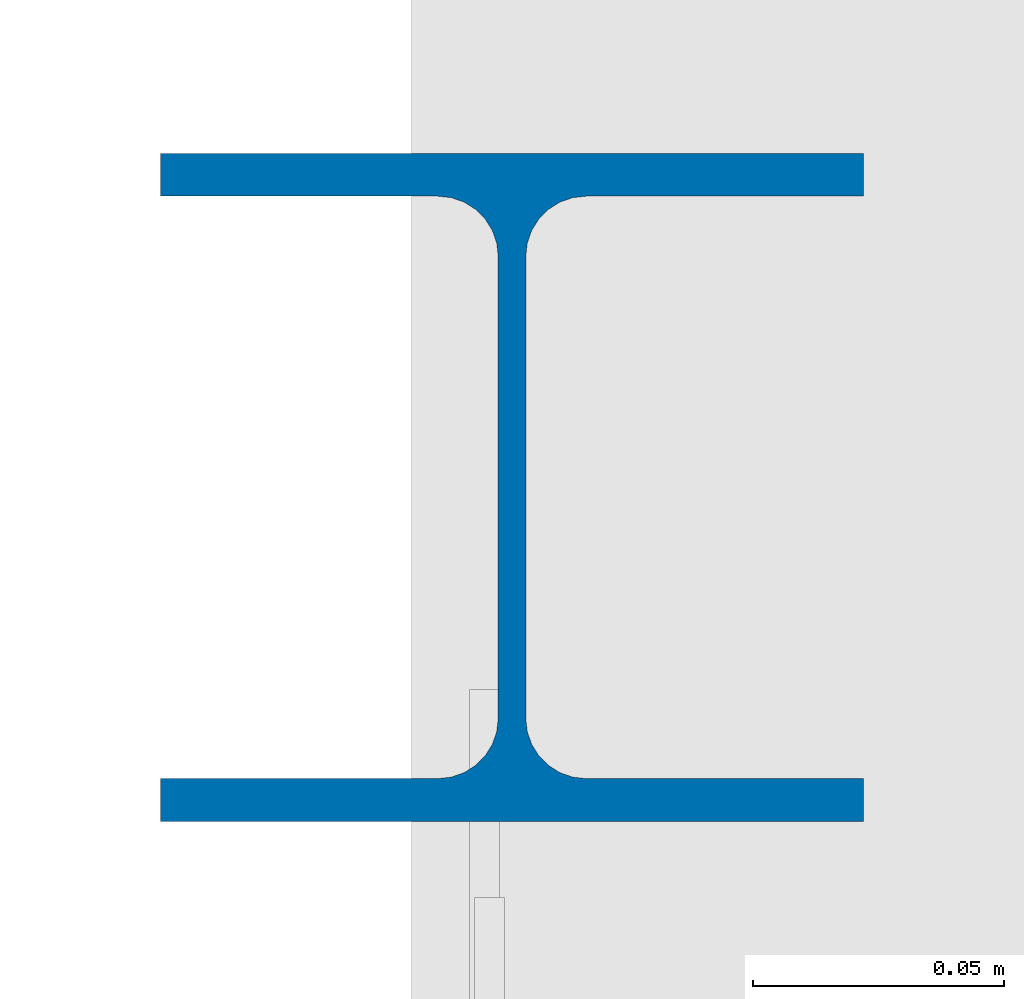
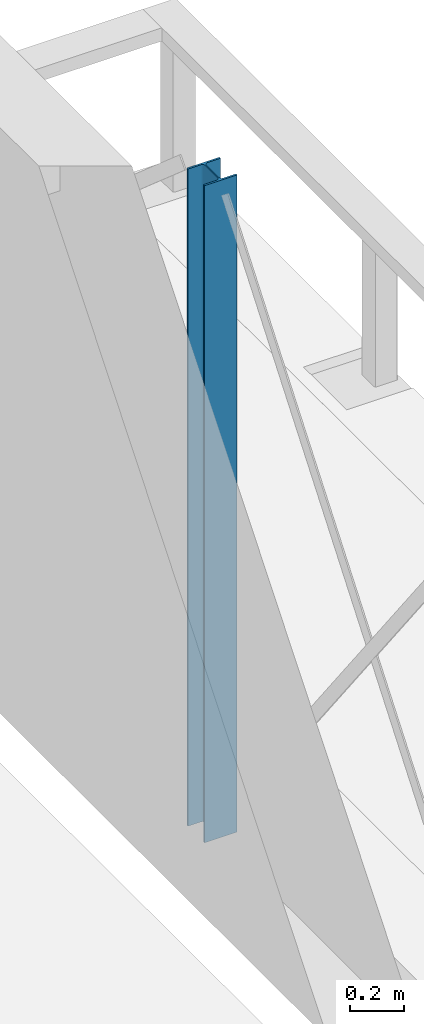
# One storey, part 3 of 68: 1 column.
"""IFC2X3 building model written with IfcOpenShell, lengths in millimetres."""

from ifc_helpers import new_model, entity, si_unit, converted_unit, derived_unit, direction, frame, frame_2d, origin, place, context, subcontext, project, spatial, i_section, extrude, source, transform, mapped, material, type_object, type_shapes, element, save


model = new_model("IFC2X3")

# Units and contexts
model_context = context("Model", 3, precision=0.01, world=origin(), true_north=direction((6.12303176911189e-17, 1.0)))
body_context = subcontext(model_context, "Body", "Model", "MODEL_VIEW")
ifc_project = project(units=[si_unit("LENGTHUNIT", "METRE", prefix="MILLI"), si_unit("AREAUNIT", "SQUARE_METRE", prefix="MILLI"), si_unit("VOLUMEUNIT", "CUBIC_METRE"), converted_unit("PLANEANGLEUNIT", "DEGREE", entity("IfcRatioMeasure", 0.0174532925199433), si_unit("PLANEANGLEUNIT", "RADIAN"), dimensions=[0, 0, 0, 0, 0, 0, 0]), si_unit("MASSUNIT", "GRAM", prefix="KILO"), derived_unit("MASSDENSITYUNIT", [(si_unit("MASSUNIT", "GRAM", prefix="KILO"), 1), (si_unit("LENGTHUNIT", "METRE"), -3)]), derived_unit("MOMENTOFINERTIAUNIT", [(si_unit("LENGTHUNIT", "METRE"), 4)]), si_unit("TIMEUNIT", "SECOND"), si_unit("FREQUENCYUNIT", "HERTZ"), si_unit("THERMODYNAMICTEMPERATUREUNIT", "DEGREE_CELSIUS"), derived_unit("THERMALTRANSMITTANCEUNIT", [(si_unit("MASSUNIT", "GRAM", prefix="KILO"), 1), (si_unit("THERMODYNAMICTEMPERATUREUNIT", "KELVIN"), -1), (si_unit("TIMEUNIT", "SECOND"), -3)]), derived_unit("VOLUMETRICFLOWRATEUNIT", [(si_unit("LENGTHUNIT", "METRE"), 3), (si_unit("TIMEUNIT", "SECOND"), -1)]), si_unit("ELECTRICCURRENTUNIT", "AMPERE"), si_unit("ELECTRICVOLTAGEUNIT", "VOLT"), si_unit("POWERUNIT", "WATT"), si_unit("FORCEUNIT", "NEWTON", prefix="KILO"), si_unit("ILLUMINANCEUNIT", "LUX"), si_unit("LUMINOUSFLUXUNIT", "LUMEN"), si_unit("LUMINOUSINTENSITYUNIT", "CANDELA"), derived_unit("USERDEFINED", [(si_unit("MASSUNIT", "GRAM", prefix="KILO"), -1), (si_unit("LENGTHUNIT", "METRE"), -2), (si_unit("TIMEUNIT", "SECOND"), 3), (si_unit("LUMINOUSFLUXUNIT", "LUMEN"), 1)]), derived_unit("LINEARVELOCITYUNIT", [(si_unit("LENGTHUNIT", "METRE"), 1), (si_unit("TIMEUNIT", "SECOND"), -1)]), si_unit("PRESSUREUNIT", "PASCAL"), derived_unit("USERDEFINED", [(si_unit("LENGTHUNIT", "METRE"), -2), (si_unit("MASSUNIT", "GRAM", prefix="KILO"), 1), (si_unit("TIMEUNIT", "SECOND"), -2)]), derived_unit("LINEARFORCEUNIT", [(si_unit("MASSUNIT", "GRAM", prefix="KILO"), 1), (si_unit("LENGTHUNIT", "METRE"), 1), (si_unit("TIMEUNIT", "SECOND"), -2), (si_unit("LENGTHUNIT", "METRE"), -1)]), derived_unit("PLANARFORCEUNIT", [(si_unit("MASSUNIT", "GRAM", prefix="KILO"), 1), (si_unit("LENGTHUNIT", "METRE"), 1), (si_unit("TIMEUNIT", "SECOND"), -2), (si_unit("LENGTHUNIT", "METRE"), -2)])], contexts=[model_context])

# Site, building, storey
site_placement = place(None, origin())
site = spatial("IfcSite", under=ifc_project, at=site_placement, Name="Theater aan de Parade", CompositionType="ELEMENT")
building_placement = place(site_placement, origin())
building = spatial("IfcBuilding", under=site, at=building_placement, Name="Theater aan de Parade", CompositionType="ELEMENT")
storey_placement = place(building_placement, frame((0.0, 0.0, 8750.0)))
storey = spatial("IfcBuildingStorey", under=building, at=storey_placement, Name="02 tweede verdieping", CompositionType="ELEMENT", Elevation=8750.0)

# Column
ifc_material = material(Name="00_PBT_MAT_staal_S355")
column_type = type_object("IfcColumnType", Name="28_PBT_SC_staal_H-profiel:S355_HE140A", PredefinedType="COLUMN", material=ifc_material)
shared_shape = source(origin(), body_context, "Body", "SweptSolid", [
    extrude(i_section(OverallWidth=140.000000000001, OverallDepth=132.999999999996, WebThickness=5.50000000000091, FlangeThickness=8.49999999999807, FilletRadius=12.0000000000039, at=frame_2d((-6.49436060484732e-12, 3.24718030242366e-12), x_axis=(0.0, 1.0))), frame((16003.8570032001, 25963.2922985, 8583.0), z_axis=(0.0, 0.0, 1.0), x_axis=(0.0, -1.0, 0.0)), (0.0, 0.0, 1.0), 2984.0),
])
type_shapes(column_type, [shared_shape])
column_placement = place(storey_placement, frame((0.0, 0.0, -8750.0)))
element("IfcColumn", 1, at=column_placement, inside=storey, type_object=column_type, material=ifc_material, Name="28_PBT_SC_staal_H-profiel:S355_HE140A", ObjectType="28_PBT_SC_staal_H-profiel:S355_HE140A", context=body_context, shape_type="MappedRepresentation", body=[
    mapped(shared_shape, transform((0.0, 0.0, 0.0), scale=1.0)),
])

save(model, "model.ifc")
